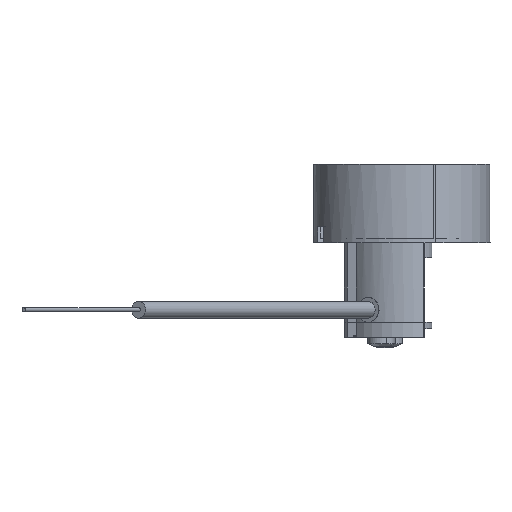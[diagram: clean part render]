
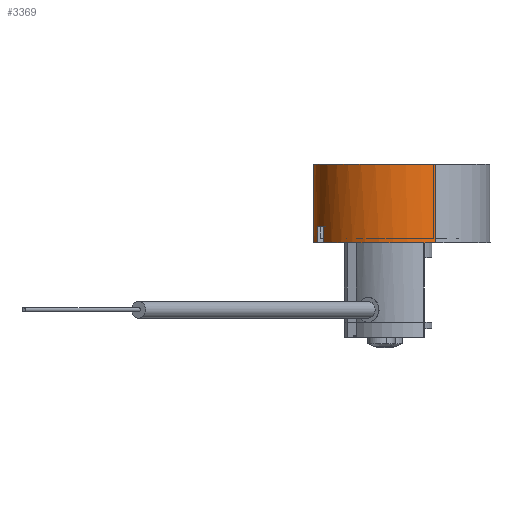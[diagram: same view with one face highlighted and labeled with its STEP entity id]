
A CAD part, left-side view. The second image highlights one B-rep face of the part: STEP entity #3369.
In plain terms, the highlighted cylindrical face has radius 20.5 mm (diameter 41 mm), a partial arc.
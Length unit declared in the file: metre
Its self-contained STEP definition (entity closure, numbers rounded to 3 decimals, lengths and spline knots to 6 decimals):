
#47 = VECTOR ( 'NONE', #1891, 1. ) ;
#103 = CARTESIAN_POINT ( 'NONE',  ( 0.0019, 0.020412, 0.0145 ) ) ;
#146 = AXIS2_PLACEMENT_3D ( 'NONE', #3685, #900, #3047 ) ;
#268 = VERTEX_POINT ( 'NONE', #2765 ) ;
#275 = VERTEX_POINT ( 'NONE', #2726 ) ;
#386 = AXIS2_PLACEMENT_3D ( 'NONE', #2271, #1073, #3843 ) ;
#453 = CIRCLE ( 'NONE', #1676, 0.0205 ) ;
#531 = VECTOR ( 'NONE', #2624, 1. ) ;
#538 = LINE ( 'NONE', #1625, #1093 ) ;
#836 = CIRCLE ( 'NONE', #1753, 0.0205 ) ;
#842 = EDGE_CURVE ( 'NONE', #2877, #1068, #1758, .T. ) ;
#892 = EDGE_CURVE ( 'NONE', #2610, #2564, #1955, .T. ) ;
#900 = DIRECTION ( 'NONE',  ( 0., 0., 1. ) ) ;
#1068 = VERTEX_POINT ( 'NONE', #103 ) ;
#1073 = DIRECTION ( 'NONE',  ( 0., 0., -1. ) ) ;
#1093 = VECTOR ( 'NONE', #3796, 1. ) ;
#1155 = ORIENTED_EDGE ( 'NONE', *, *, #2475, .F. ) ;
#1227 = ORIENTED_EDGE ( 'NONE', *, *, #3337, .T. ) ;
#1237 = VERTEX_POINT ( 'NONE', #1721 ) ;
#1261 = EDGE_CURVE ( 'NONE', #2910, #275, #2140, .T. ) ;
#1387 = CARTESIAN_POINT ( 'NONE',  ( 0.0205, 0., 0.0182 ) ) ;
#1601 = DIRECTION ( 'NONE',  ( -1., 0., 0. ) ) ;
#1625 = CARTESIAN_POINT ( 'NONE',  ( -0.0205, 0., 0.0182 ) ) ;
#1659 = ORIENTED_EDGE ( 'NONE', *, *, #1261, .T. ) ;
#1676 = AXIS2_PLACEMENT_3D ( 'NONE', #2550, #3790, #1601 ) ;
#1721 = CARTESIAN_POINT ( 'NONE',  ( -0.0205, 0., 0. ) ) ;
#1728 = ORIENTED_EDGE ( 'NONE', *, *, #892, .F. ) ;
#1733 = CARTESIAN_POINT ( 'NONE',  ( 0., 0., 0.0182 ) ) ;
#1753 = AXIS2_PLACEMENT_3D ( 'NONE', #3216, #3241, #2618 ) ;
#1758 = LINE ( 'NONE', #2230, #2397 ) ;
#1891 = DIRECTION ( 'NONE',  ( 0., 0., 1. ) ) ;
#1909 = DIRECTION ( 'NONE',  ( 0., 0., -1. ) ) ;
#1927 = CARTESIAN_POINT ( 'NONE',  ( -0.0019, 0.020412, 0.0182 ) ) ;
#1955 = LINE ( 'NONE', #3758, #47 ) ;
#1974 = ORIENTED_EDGE ( 'NONE', *, *, #3987, .F. ) ;
#2009 = DIRECTION ( 'NONE',  ( -1., 0., 0. ) ) ;
#2140 = LINE ( 'NONE', #1387, #531 ) ;
#2230 = CARTESIAN_POINT ( 'NONE',  ( 0.0019, 0.020412, 0.0091 ) ) ;
#2271 = CARTESIAN_POINT ( 'NONE',  ( 0., 0., 0.0182 ) ) ;
#2315 = DIRECTION ( 'NONE',  ( 0., 0., 1. ) ) ;
#2397 = VECTOR ( 'NONE', #1909, 1. ) ;
#2475 = EDGE_CURVE ( 'NONE', #1068, #2610, #3263, .T. ) ;
#2501 = CARTESIAN_POINT ( 'NONE',  ( -0.0019, 0.020412, 0.0145 ) ) ;
#2550 = CARTESIAN_POINT ( 'NONE',  ( 0., 0., 0.0182 ) ) ;
#2564 = VERTEX_POINT ( 'NONE', #1927 ) ;
#2610 = VERTEX_POINT ( 'NONE', #2501 ) ;
#2618 = DIRECTION ( 'NONE',  ( -1., 0., 0. ) ) ;
#2624 = DIRECTION ( 'NONE',  ( 0., 0., -1. ) ) ;
#2648 = AXIS2_PLACEMENT_3D ( 'NONE', #1733, #2315, #2009 ) ;
#2656 = CYLINDRICAL_SURFACE ( 'NONE', #386, 0.0205 ) ;
#2726 = CARTESIAN_POINT ( 'NONE',  ( 0.0205, 0., 0. ) ) ;
#2744 = CARTESIAN_POINT ( 'NONE',  ( 0.0205, 0., 0.0182 ) ) ;
#2754 = FACE_OUTER_BOUND ( 'NONE', #2979, .T. ) ;
#2765 = CARTESIAN_POINT ( 'NONE',  ( -0.0205, 0., 0.0182 ) ) ;
#2877 = VERTEX_POINT ( 'NONE', #3691 ) ;
#2910 = VERTEX_POINT ( 'NONE', #2744 ) ;
#2979 = EDGE_LOOP ( 'NONE', ( #3202, #1659, #1227, #3167, #1974, #1728, #1155, #3884 ) ) ;
#3047 = DIRECTION ( 'NONE',  ( -1., 0., 0. ) ) ;
#3129 = EDGE_CURVE ( 'NONE', #268, #1237, #538, .T. ) ;
#3167 = ORIENTED_EDGE ( 'NONE', *, *, #3129, .F. ) ;
#3202 = ORIENTED_EDGE ( 'NONE', *, *, #3647, .F. ) ;
#3216 = CARTESIAN_POINT ( 'NONE',  ( 0., 0., 0. ) ) ;
#3241 = DIRECTION ( 'NONE',  ( 0., 0., 1. ) ) ;
#3263 = CIRCLE ( 'NONE', #146, 0.0205 ) ;
#3337 = EDGE_CURVE ( 'NONE', #275, #1237, #836, .T. ) ;
#3369 = ADVANCED_FACE ( 'NONE', ( #2754 ), #2656, .T. ) ;
#3431 = CIRCLE ( 'NONE', #2648, 0.0205 ) ;
#3647 = EDGE_CURVE ( 'NONE', #2910, #2877, #453, .T. ) ;
#3685 = CARTESIAN_POINT ( 'NONE',  ( 0., 0., 0.0145 ) ) ;
#3691 = CARTESIAN_POINT ( 'NONE',  ( 0.0019, 0.020412, 0.0182 ) ) ;
#3758 = CARTESIAN_POINT ( 'NONE',  ( -0.0019, 0.020412, 0.0091 ) ) ;
#3790 = DIRECTION ( 'NONE',  ( 0., 0., 1. ) ) ;
#3796 = DIRECTION ( 'NONE',  ( 0., 0., -1. ) ) ;
#3843 = DIRECTION ( 'NONE',  ( -1., 0., 0. ) ) ;
#3884 = ORIENTED_EDGE ( 'NONE', *, *, #842, .F. ) ;
#3987 = EDGE_CURVE ( 'NONE', #2564, #268, #3431, .T. ) ;
